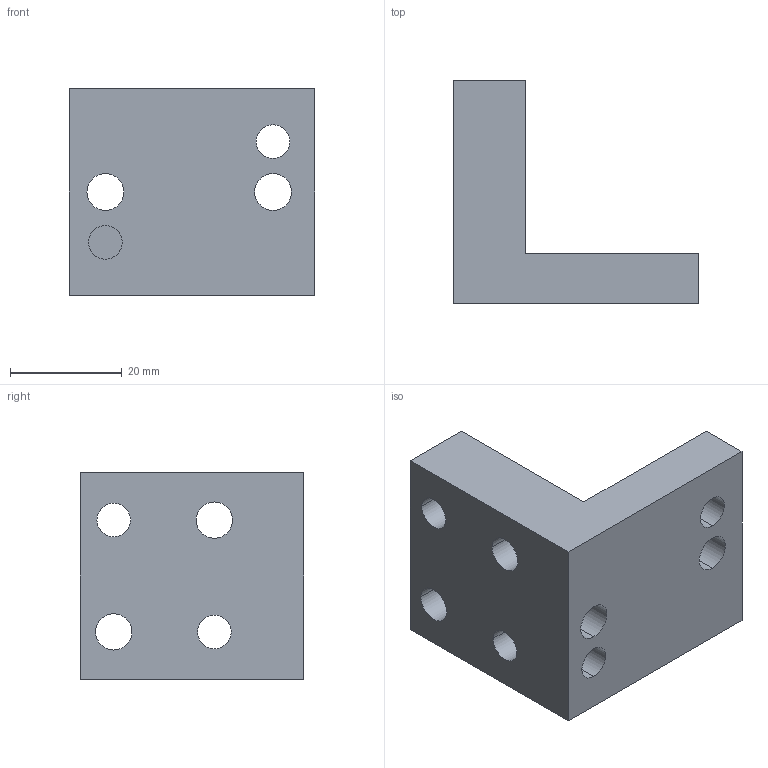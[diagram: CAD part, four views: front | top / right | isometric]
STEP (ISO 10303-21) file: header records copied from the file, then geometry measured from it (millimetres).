
FILE_DESCRIPTION (( 'STEP AP203' ), '1' );
FILE_NAME ('PPE50-L.step', '2017-02-15T12:25:47', ( '' ), ( '' ), 'SwSTEP 2.0', 'SolidWorks 2012', '' );
FILE_SCHEMA (( 'CONFIG_CONTROL_DESIGN' ));
Length unit declared in the file: millimetre
Products named in the file (1): PPE50-L
Bounding box: 44 x 40 x 37 mm (x, y, z)
Volume: 25297.1 mm3; surface area: 9860.5 mm2
Topology: 1 solids, 1 shells, 31 faces, 78 edges, 52 vertices
Faces by surface type: cylinder 20, plane 11
Entity records: 1057 total; most frequent: DIRECTION 182, CARTESIAN_POINT 162, ORIENTED_EDGE 156, EDGE_CURVE 78, AXIS2_PLACEMENT_3D 72, VERTEX_POINT 52, EDGE_LOOP 48, CIRCLE 40
